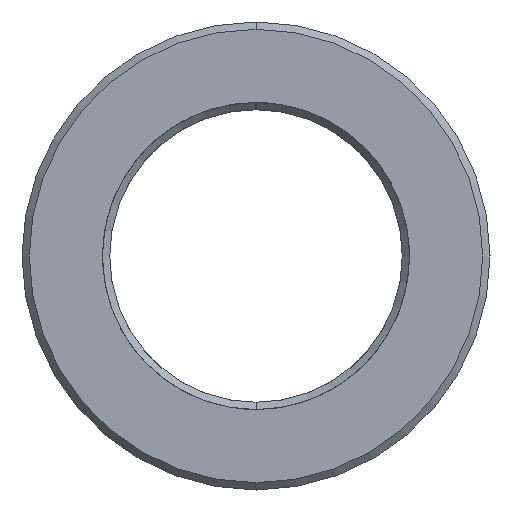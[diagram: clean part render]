
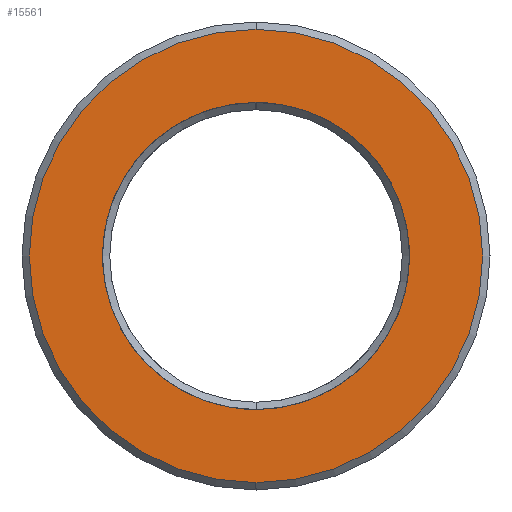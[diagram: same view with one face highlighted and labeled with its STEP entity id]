
A CAD part, left-side view. The second image highlights one B-rep face of the part: STEP entity #15561.
In plain terms, the highlighted planar face has unit normal (1, 0, 0).
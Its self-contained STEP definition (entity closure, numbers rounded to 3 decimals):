
#15478=CARTESIAN_POINT('Axis2P3D Location',(0.,0.,0.)) ;
#15483=CARTESIAN_POINT('Axis2P3D Location',(0.,0.,0.)) ;
#15487=CARTESIAN_POINT('Vertex',(0.,0.,-15.5)) ;
#15489=CARTESIAN_POINT('Vertex',(0.,0.,15.5)) ;
#15492=CARTESIAN_POINT('Axis2P3D Location',(0.,0.,0.)) ;
#15502=CARTESIAN_POINT('Control Point',(0.,0.,10.5)) ;
#15503=CARTESIAN_POINT('Control Point',(0.,0.952,10.5)) ;
#15504=CARTESIAN_POINT('Control Point',(0.,1.905,10.392)) ;
#15505=CARTESIAN_POINT('Control Point',(0.,2.841,10.176)) ;
#15506=CARTESIAN_POINT('Control Point',(0.,4.648,9.535)) ;
#15507=CARTESIAN_POINT('Control Point',(0.,6.266,8.507)) ;
#15508=CARTESIAN_POINT('Control Point',(0.,7.013,7.902)) ;
#15509=CARTESIAN_POINT('Control Point',(0.,8.356,6.535)) ;
#15510=CARTESIAN_POINT('Control Point',(0.,9.36,4.901)) ;
#15511=CARTESIAN_POINT('Control Point',(0.,9.766,4.031)) ;
#15512=CARTESIAN_POINT('Control Point',(0.,10.375,2.213)) ;
#15513=CARTESIAN_POINT('Control Point',(0.,10.561,0.305)) ;
#15514=CARTESIAN_POINT('Control Point',(0.,10.545,-0.656)) ;
#15515=CARTESIAN_POINT('Control Point',(0.,10.295,-2.557)) ;
#15516=CARTESIAN_POINT('Control Point',(0.,9.626,-4.354)) ;
#15517=CARTESIAN_POINT('Control Point',(0.,9.191,-5.21)) ;
#15518=CARTESIAN_POINT('Control Point',(0.,8.134,-6.809)) ;
#15519=CARTESIAN_POINT('Control Point',(0.,6.746,-8.131)) ;
#15520=CARTESIAN_POINT('Control Point',(0.,5.979,-8.711)) ;
#15521=CARTESIAN_POINT('Control Point',(0.,4.389,-9.649)) ;
#15522=CARTESIAN_POINT('Control Point',(0.,2.635,-10.222)) ;
#15523=CARTESIAN_POINT('Control Point',(0.,1.765,-10.407)) ;
#15524=CARTESIAN_POINT('Control Point',(0.,0.883,-10.5)) ;
#15525=CARTESIAN_POINT('Control Point',(0.,0.,-10.5)) ;
#15526=CARTESIAN_POINT('Vertex',(0.,0.,10.5)) ;
#15528=CARTESIAN_POINT('Vertex',(0.,0.,-10.5)) ;
#15532=CARTESIAN_POINT('Control Point',(0.,0.,-10.5)) ;
#15533=CARTESIAN_POINT('Control Point',(0.,-0.952,-10.5)) ;
#15534=CARTESIAN_POINT('Control Point',(0.,-1.905,-10.392)) ;
#15535=CARTESIAN_POINT('Control Point',(0.,-2.841,-10.176)) ;
#15536=CARTESIAN_POINT('Control Point',(0.,-4.648,-9.535)) ;
#15537=CARTESIAN_POINT('Control Point',(0.,-6.266,-8.507)) ;
#15538=CARTESIAN_POINT('Control Point',(0.,-7.013,-7.902)) ;
#15539=CARTESIAN_POINT('Control Point',(0.,-8.356,-6.535)) ;
#15540=CARTESIAN_POINT('Control Point',(0.,-9.36,-4.901)) ;
#15541=CARTESIAN_POINT('Control Point',(0.,-9.766,-4.031)) ;
#15542=CARTESIAN_POINT('Control Point',(0.,-10.375,-2.213)) ;
#15543=CARTESIAN_POINT('Control Point',(0.,-10.561,-0.305)) ;
#15544=CARTESIAN_POINT('Control Point',(0.,-10.545,0.656)) ;
#15545=CARTESIAN_POINT('Control Point',(0.,-10.295,2.557)) ;
#15546=CARTESIAN_POINT('Control Point',(0.,-9.626,4.354)) ;
#15547=CARTESIAN_POINT('Control Point',(0.,-9.191,5.21)) ;
#15548=CARTESIAN_POINT('Control Point',(0.,-8.134,6.809)) ;
#15549=CARTESIAN_POINT('Control Point',(0.,-6.746,8.131)) ;
#15550=CARTESIAN_POINT('Control Point',(0.,-5.979,8.711)) ;
#15551=CARTESIAN_POINT('Control Point',(0.,-4.389,9.649)) ;
#15552=CARTESIAN_POINT('Control Point',(0.,-2.635,10.222)) ;
#15553=CARTESIAN_POINT('Control Point',(0.,-1.765,10.407)) ;
#15554=CARTESIAN_POINT('Control Point',(0.,-0.883,10.5)) ;
#15555=CARTESIAN_POINT('Control Point',(0.,0.,10.5)) ;
#15479=DIRECTION('Axis2P3D Direction',(1.,0.,0.)) ;
#15480=DIRECTION('Axis2P3D XDirection',(0.,1.,0.)) ;
#15484=DIRECTION('Axis2P3D Direction',(1.,0.,0.)) ;
#15493=DIRECTION('Axis2P3D Direction',(1.,0.,0.)) ;
#15481=AXIS2_PLACEMENT_3D('Plane Axis2P3D',#15478,#15479,#15480) ;
#15485=AXIS2_PLACEMENT_3D('Circle Axis2P3D',#15483,#15484,$) ;
#15494=AXIS2_PLACEMENT_3D('Circle Axis2P3D',#15492,#15493,$) ;
#15498=ORIENTED_EDGE('',*,*,#15491,.T.) ;
#15499=ORIENTED_EDGE('',*,*,#15496,.T.) ;
#15558=ORIENTED_EDGE('',*,*,#15530,.T.) ;
#15559=ORIENTED_EDGE('',*,*,#15556,.T.) ;
#15560=FACE_BOUND('',#15557,.T.) ;
#15561=ADVANCED_FACE('MANIFOLD_SOLID_BREP #8105',(#15500,#15560),#15482,.T.) ;
#15501=B_SPLINE_CURVE_WITH_KNOTS('',5,(#15502,#15503,#15504,#15505,#15506,#15507,#15508,#15509,#15510,#15511,#15512,#15513,#15514,#15515,#15516,#15517,#15518,#15519,#15520,#15521,#15522,#15523,#15524,#15525),.UNSPECIFIED.,.F.,.U.,(6,3,3,3,3,3,3,6),(0.,6.735,13.47,20.205,26.94,33.675,40.41,46.65),.UNSPECIFIED.) ;
#15531=B_SPLINE_CURVE_WITH_KNOTS('',5,(#15532,#15533,#15534,#15535,#15536,#15537,#15538,#15539,#15540,#15541,#15542,#15543,#15544,#15545,#15546,#15547,#15548,#15549,#15550,#15551,#15552,#15553,#15554,#15555),.UNSPECIFIED.,.F.,.U.,(6,3,3,3,3,3,3,6),(0.,6.735,13.47,20.205,26.94,33.675,40.41,46.65),.UNSPECIFIED.) ;
#15486=CIRCLE('generated circle',#15485,15.5) ;
#15495=CIRCLE('generated circle',#15494,15.5) ;
#15491=EDGE_CURVE('',#15488,#15490,#15486,.T.) ;
#15496=EDGE_CURVE('',#15490,#15488,#15495,.T.) ;
#15530=EDGE_CURVE('',#15527,#15529,#15501,.T.) ;
#15556=EDGE_CURVE('',#15529,#15527,#15531,.T.) ;
#15497=EDGE_LOOP('',(#15498,#15499)) ;
#15557=EDGE_LOOP('',(#15558,#15559)) ;
#15500=FACE_OUTER_BOUND('',#15497,.T.) ;
#15482=PLANE('Plane',#15481) ;
#15488=VERTEX_POINT('',#15487) ;
#15490=VERTEX_POINT('',#15489) ;
#15527=VERTEX_POINT('',#15526) ;
#15529=VERTEX_POINT('',#15528) ;
